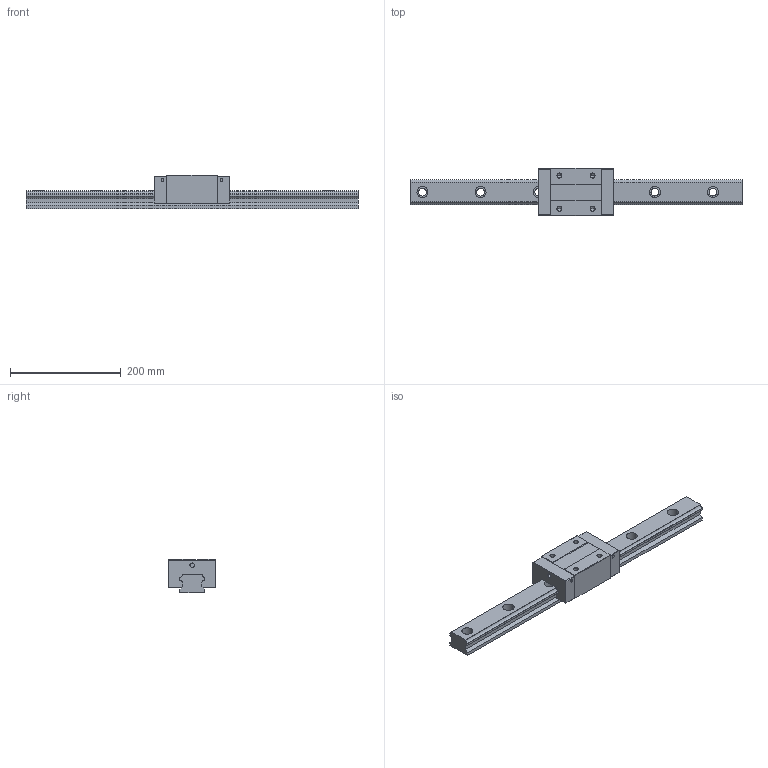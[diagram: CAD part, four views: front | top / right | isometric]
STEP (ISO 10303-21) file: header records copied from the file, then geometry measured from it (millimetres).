
FILE_DESCRIPTION (( 'STEP AP203' ), '1' );
FILE_NAME ('TRS45VN-WW.STEP', '2024-05-24T02:10:11', ( '' ), ( '' ), 'SwSTEP 2.0', 'SolidWorks 2022', '' );
FILE_SCHEMA (( 'CONFIG_CONTROL_DESIGN' ));
Length unit declared in the file: millimetre
Products named in the file (1): TRS45VN-WW
Bounding box: 600 x 85.5 x 60 mm (x, y, z)
Volume: 1171854.8 mm3; surface area: 160315.7 mm2
Topology: 2 solids, 2 shells, 180 faces, 472 edges, 304 vertices
Faces by surface type: plane 84, cylinder 80, cone 16
Entity records: 5607 total; most frequent: DIRECTION 994, CARTESIAN_POINT 949, ORIENTED_EDGE 928, EDGE_CURVE 464, AXIS2_PLACEMENT_3D 349, VERTEX_POINT 304, VECTOR 296, LINE 296
